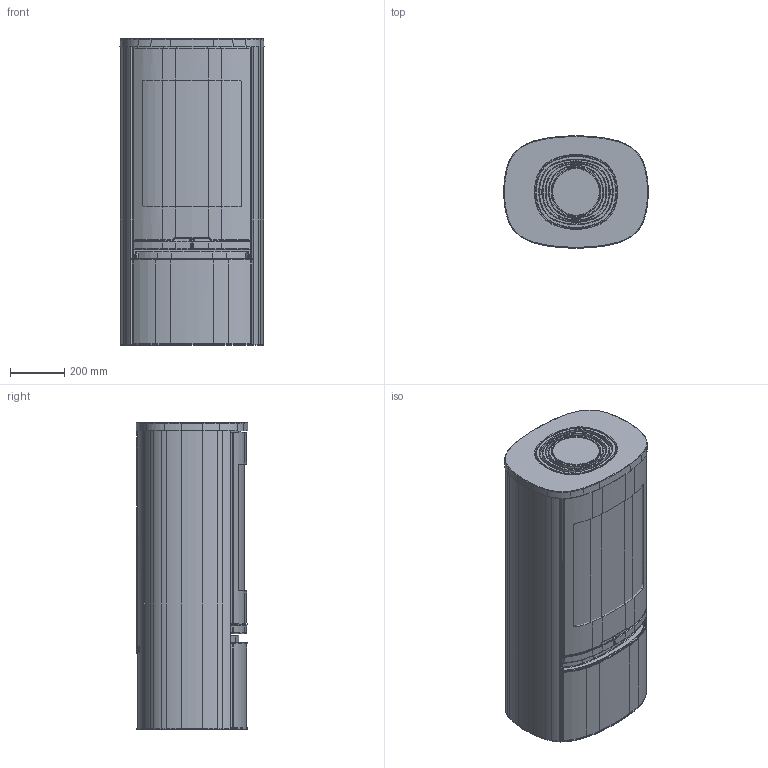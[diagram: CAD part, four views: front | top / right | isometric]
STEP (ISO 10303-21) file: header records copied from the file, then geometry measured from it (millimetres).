
FILE_DESCRIPTION(/* description */ ('Unknown'),/* implementation_level */ '2;1');
FILE_NAME(/* name */ 'DSN1110935_0_asm',/* time_stamp */ '2025-02-24T08:52:31+01:00',/* author */ ('Unknown'),/* organization */ ('NIBE AB'),/* preprocessor_version */ 'ST-DEVELOPER v18.102',/* originating_system */ 'Solid Edge',/* authorisation */ 'Unknown');
FILE_SCHEMA (('CONFIG_CONTROL_DESIGN'));
Products named in the file (11): DSN1110935; DSN1110949; DSN1110923; DSN1110955; DSN1111155; DSN1111118; DSN1111115; DSN1111098; DSN1111090; DSN1110998; DSN1110968
Assembly tree (10 placements, depth 2):
  DSN1110935
    DSN1110949
    DSN1110923
    DSN1110955
    DSN1111155
    DSN1111118
    DSN1111115
    DSN1111098
    DSN1111090
    DSN1110998
    DSN1110968
Bounding box: 534.52 x 414.02 x 1135 mm (x, y, z)
Volume: 171804412.7 mm3; surface area: 9248116.4 mm2
Topology: 10 solids, 10 shells, 1414 faces, 3620 edges, 2256 vertices
Faces by surface type: plane 377, cylinder 356, bspline 347, torus 182, cone 138, sphere 14
Full cylindrical faces by diameter (mm): 5 x5, 176.4 x1, 180.592 x1, 213.2 x1
Entity records: 68854 total; most frequent: CARTESIAN_POINT 36399, ORIENTED_EDGE 7152, DIRECTION 6231, EDGE_CURVE 3576, AXIS2_PLACEMENT_3D 2476, VERTEX_POINT 2250, FACE_BOUND 1500, EDGE_LOOP 1499
